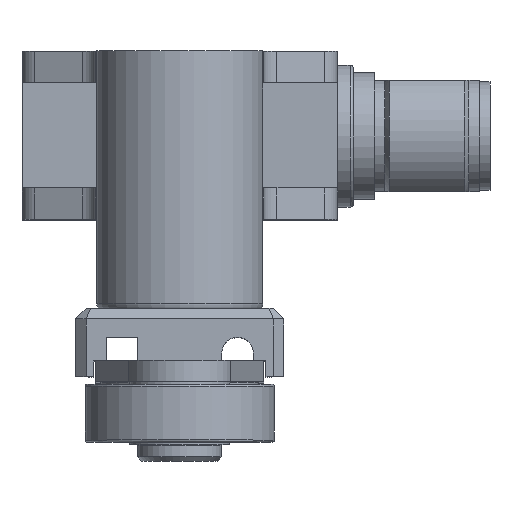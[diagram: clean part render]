
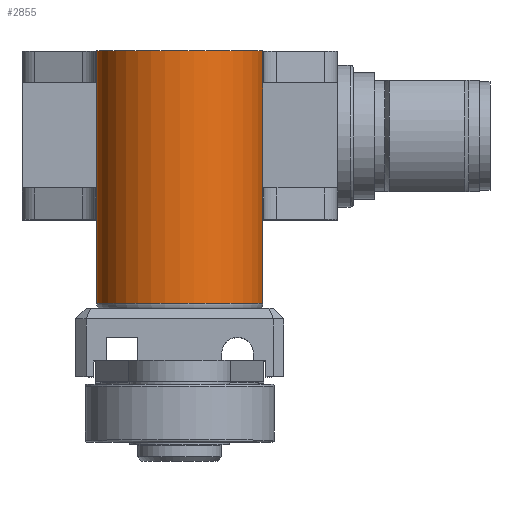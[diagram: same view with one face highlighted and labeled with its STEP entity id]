
A CAD part, top view. The second image highlights one B-rep face of the part: STEP entity #2855.
In plain terms, the highlighted cylindrical face has radius 7.9 mm (diameter 15.8 mm), a full revolution.
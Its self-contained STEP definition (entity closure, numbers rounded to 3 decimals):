
#339=FACE_OUTER_BOUND('',#528,.T.);
#528=EDGE_LOOP('',(#2539,#2540,#2541,#2542,#2543,#2544,#2545));
#783=LINE('',#4840,#1042);
#784=LINE('',#4842,#1043);
#785=LINE('',#4846,#1044);
#1042=VECTOR('',#3999,7.9);
#1043=VECTOR('',#4000,10.);
#1044=VECTOR('',#4003,10.);
#1163=CIRCLE('',#3188,7.9);
#1167=CIRCLE('',#3194,7.9);
#1168=CIRCLE('',#3195,7.9);
#1407=VERTEX_POINT('',#4830);
#1410=VERTEX_POINT('',#4839);
#1411=VERTEX_POINT('',#4841);
#1412=VERTEX_POINT('',#4843);
#1413=VERTEX_POINT('',#4845);
#1784=EDGE_CURVE('',#1407,#1407,#1163,.T.);
#1788=EDGE_CURVE('',#1407,#1410,#783,.T.);
#1789=EDGE_CURVE('',#1411,#1410,#784,.T.);
#1790=EDGE_CURVE('',#1412,#1411,#1167,.T.);
#1791=EDGE_CURVE('',#1412,#1413,#785,.T.);
#1792=EDGE_CURVE('',#1410,#1413,#1168,.T.);
#2539=ORIENTED_EDGE('',*,*,#1784,.F.);
#2540=ORIENTED_EDGE('',*,*,#1788,.T.);
#2541=ORIENTED_EDGE('',*,*,#1789,.F.);
#2542=ORIENTED_EDGE('',*,*,#1790,.F.);
#2543=ORIENTED_EDGE('',*,*,#1791,.T.);
#2544=ORIENTED_EDGE('',*,*,#1792,.F.);
#2545=ORIENTED_EDGE('',*,*,#1788,.F.);
#2618=CYLINDRICAL_SURFACE('',#3193,7.9);
#2855=ADVANCED_FACE('',(#339),#2618,.T.);
#3188=AXIS2_PLACEMENT_3D('',#4831,#3987,#3988);
#3193=AXIS2_PLACEMENT_3D('',#4838,#3997,#3998);
#3194=AXIS2_PLACEMENT_3D('',#4844,#4001,#4002);
#3195=AXIS2_PLACEMENT_3D('',#4847,#4004,#4005);
#3987=DIRECTION('center_axis',(0.,0.,1.));
#3988=DIRECTION('ref_axis',(-1.,0.,0.));
#3997=DIRECTION('center_axis',(0.,0.,1.));
#3998=DIRECTION('ref_axis',(-1.,0.,0.));
#3999=DIRECTION('',(0.,0.,-1.));
#4000=DIRECTION('',(0.,0.,1.));
#4001=DIRECTION('center_axis',(0.,0.,-1.));
#4002=DIRECTION('ref_axis',(-1.,0.,0.));
#4003=DIRECTION('',(0.,0.,1.));
#4004=DIRECTION('center_axis',(0.,0.,-1.));
#4005=DIRECTION('ref_axis',(-1.,0.,0.));
#4830=CARTESIAN_POINT('',(7.9,4.5,24.));
#4831=CARTESIAN_POINT('Origin',(0.,4.5,24.));
#4838=CARTESIAN_POINT('Origin',(0.,4.5,0.));
#4839=CARTESIAN_POINT('',(7.9,4.5,16.));
#4840=CARTESIAN_POINT('',(7.9,4.5,0.));
#4841=CARTESIAN_POINT('',(7.9,4.5,0.));
#4842=CARTESIAN_POINT('',(7.9,4.5,0.));
#4843=CARTESIAN_POINT('',(-7.9,4.5,0.));
#4844=CARTESIAN_POINT('Origin',(0.,4.5,0.));
#4845=CARTESIAN_POINT('',(-7.9,4.5,16.));
#4846=CARTESIAN_POINT('',(-7.9,4.5,0.));
#4847=CARTESIAN_POINT('Origin',(0.,4.5,16.));
